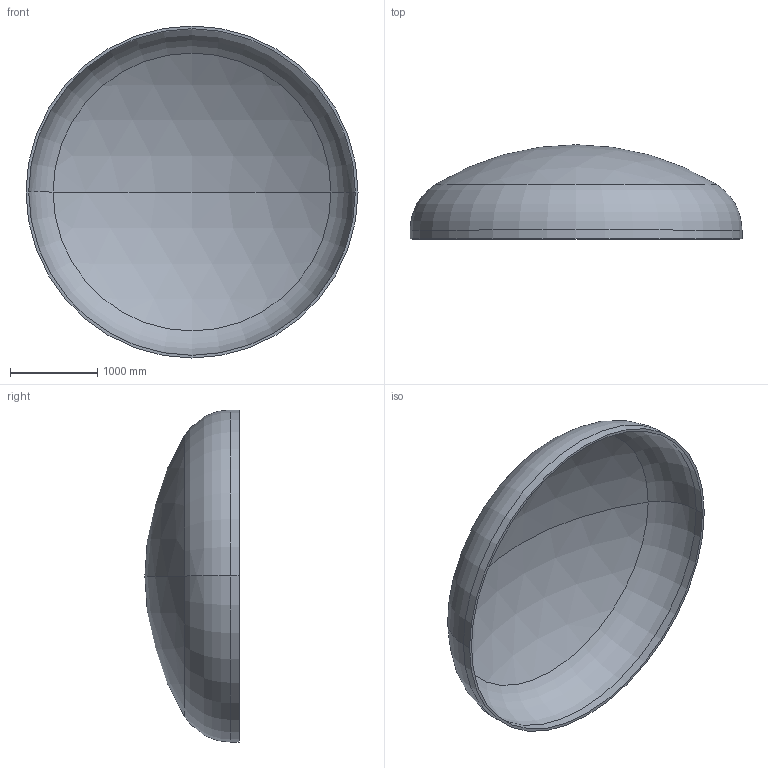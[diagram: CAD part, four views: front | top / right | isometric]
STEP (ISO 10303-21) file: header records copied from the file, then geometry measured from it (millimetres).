
FILE_DESCRIPTION (( 'STEP AP203' ), '1' );
FILE_NAME ('DIN 28013 Korbbogenform_-_Boden DIN 28013 - 3800 x 100 - I - s=31.step', '2016-07-01T21:16:17', ( '' ), ( '' ), 'SwSTEP 2.0', 'SolidWorks 2013', '' );
FILE_SCHEMA (( 'CONFIG_CONTROL_DESIGN' ));
Length unit declared in the file: millimetre
Products named in the file (1): DIN 28013 Korbbogenform_-_Boden DIN 28013 - 3800 x 100 - I - s=31
Bounding box: 3800 x 1078.54 x 3800 mm (x, y, z)
Volume: 518379015.2 mm3; surface area: 33812868.1 mm2
Topology: 1 solids, 1 shells, 13 faces, 24 edges, 14 vertices
Faces by surface type: torus 4, cylinder 4, sphere 4, plane 1
Entity records: 407 total; most frequent: DIRECTION 72, CARTESIAN_POINT 52, ORIENTED_EDGE 48, AXIS2_PLACEMENT_3D 34, EDGE_CURVE 24, CIRCLE 20, EDGE_LOOP 14, VERTEX_POINT 14
